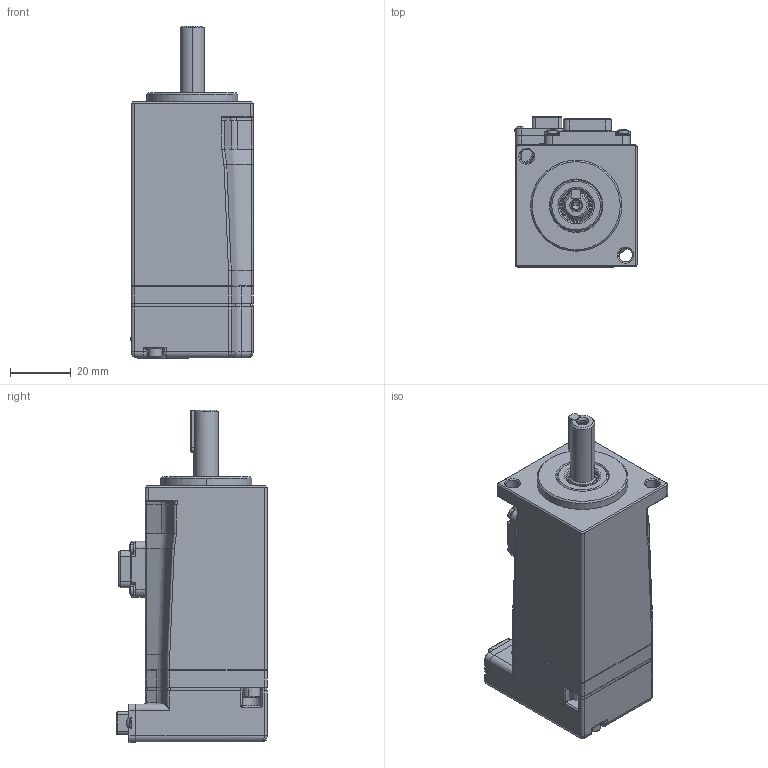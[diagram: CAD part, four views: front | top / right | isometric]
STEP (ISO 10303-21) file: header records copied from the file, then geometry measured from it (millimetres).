
FILE_DESCRIPTION (( 'STEP AP203' ), '1' );
FILE_NAME ('俋倛芞-50W-ACM2S-衄价陬.STEP', '2021-11-15T12:32:41', ( '' ), ( '' ), 'SwSTEP 2.0', 'SolidWorks 2020', '' );
FILE_SCHEMA (( 'CONFIG_CONTROL_DESIGN' ));
Length unit declared in the file: millimetre
Products named in the file (1): 俋倛芞-50W-ACM2S-衄价陬
Bounding box: 40.3 x 49.5 x 109.3 mm (x, y, z)
Volume: 148601.9 mm3; surface area: 28722.4 mm2
Topology: 13 solids, 48 shells, 3102 faces, 7768 edges, 4794 vertices
Faces by surface type: plane 1604, cylinder 853, cone 444, bspline 97, torus 96, sphere 8
Entity records: 104333 total; most frequent: CARTESIAN_POINT 29805, DIRECTION 15564, ORIENTED_EDGE 15466, EDGE_CURVE 7733, AXIS2_PLACEMENT_3D 5200, VECTOR 5164, LINE 5164, VERTEX_POINT 4794
